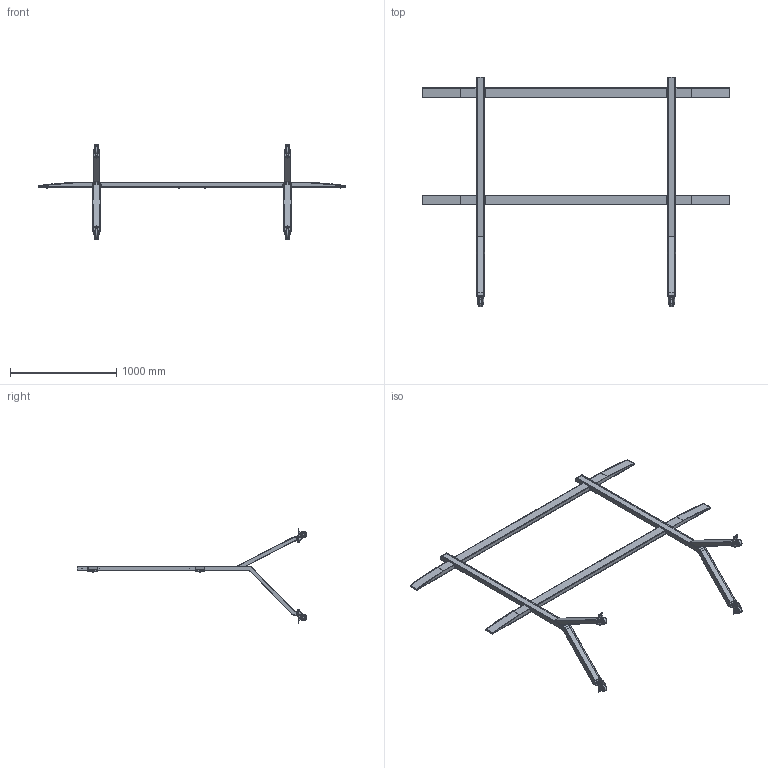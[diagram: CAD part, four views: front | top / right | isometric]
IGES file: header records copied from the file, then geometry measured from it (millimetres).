
Start section: SolidWorks IGES file using analytic representation for surfaces
Global section: file name: C:\Users\cjensen\OneDrive - Planar Systems\Desktop\URL136-T Stand 3D 052323.IGS; native system: SolidWorks 2023; preprocessor: SolidWorks 2023; author: cjensen; date: 230524.105739; units: millimetre
Bounding box: 2903 x 2162 x 901.16 mm (x, y, z)
Surface area: 4904074.7 mm2 (no closed solid volume)
Topology: 0 solids, 0 shells, 2804 faces, 32842 edges, 32832 vertices
Faces by surface type: bspline 1428, revolution 1376
